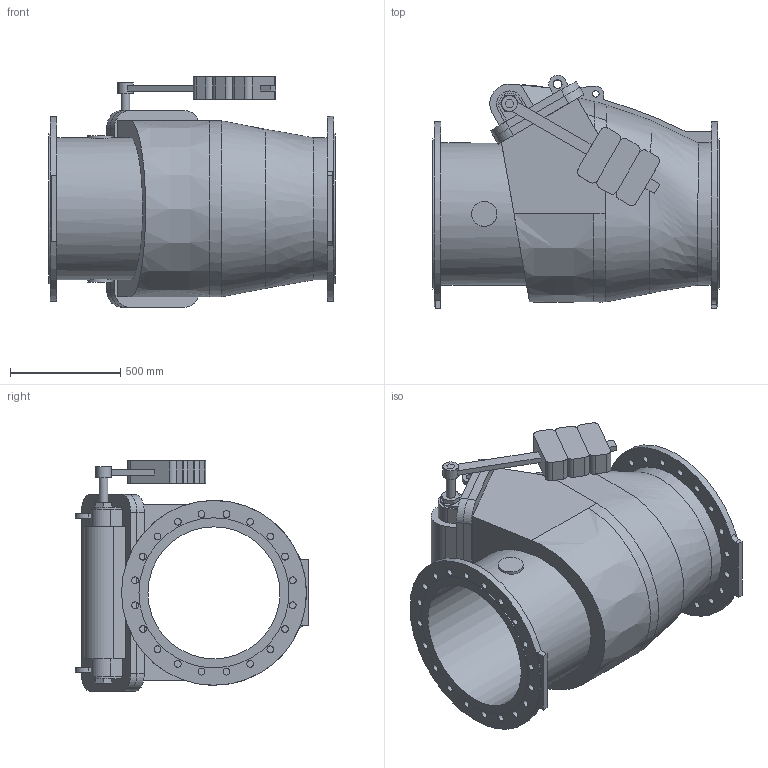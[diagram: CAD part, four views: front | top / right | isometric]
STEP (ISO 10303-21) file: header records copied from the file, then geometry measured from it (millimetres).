
FILE_DESCRIPTION (( 'STEP AP203' ), '1' );
FILE_NAME ('O_41_36_DN600_X0XXX_AA1.step', '2018-08-16T08:44:15', ( 'Windows User' ), ( 'AVK' ), 'SwSTEP 2.0', 'SolidWorks 2012', '' );
FILE_SCHEMA (( 'CONFIG_CONTROL_DESIGN' ));
Length unit declared in the file: millimetre
Products named in the file (1): O_41_36_DN600_X0XXX_AA1
Bounding box: 1300 x 1059.56 x 1047 mm (x, y, z)
Volume: 311619245.8 mm3; surface area: 8053829.8 mm2
Topology: 1 solids, 1 shells, 251 faces, 708 edges, 479 vertices
Faces by surface type: plane 152, cylinder 87, bspline 12
Full cylindrical faces by diameter (mm): 30 x1, 31 x40, 40 x3, 70 x1, 114 x2, 600 x1, 646 x1, 682 x2, 840 x2
Entity records: 26404 total; most frequent: CARTESIAN_POINT 20024, ORIENTED_EDGE 1256, DIRECTION 1213, EDGE_CURVE 628, VERTEX_POINT 453, AXIS2_PLACEMENT_3D 421, EDGE_LOOP 415, VECTOR 371
